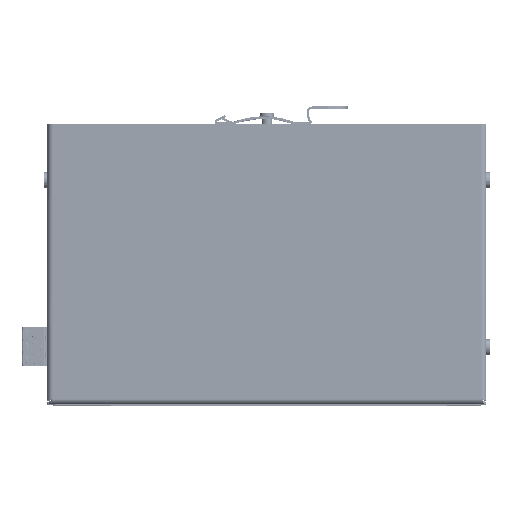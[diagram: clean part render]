
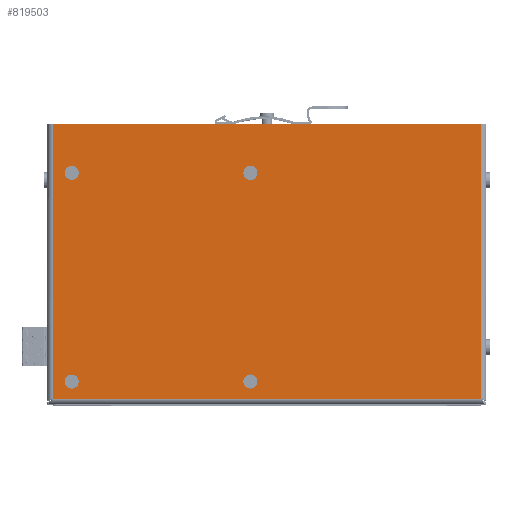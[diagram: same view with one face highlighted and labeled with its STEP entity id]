
A CAD part, top view. The second image highlights one B-rep face of the part: STEP entity #819503.
In plain terms, the highlighted planar face has unit normal (0, 0, 1).
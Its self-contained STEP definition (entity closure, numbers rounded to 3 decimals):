
#59736=FACE_BOUND('',#118910,.T.);
#59737=FACE_BOUND('',#118911,.T.);
#59738=FACE_BOUND('',#118912,.T.);
#59739=FACE_BOUND('',#118913,.T.);
#73523=PLANE('',#859409);
#84970=FACE_OUTER_BOUND('',#118909,.T.);
#118909=EDGE_LOOP('',(#637983,#637984,#637985,#637986));
#118910=EDGE_LOOP('',(#637987));
#118911=EDGE_LOOP('',(#637988));
#118912=EDGE_LOOP('',(#637989));
#118913=EDGE_LOOP('',(#637990));
#166774=LINE('',#1223654,#240197);
#166777=LINE('',#1223664,#240200);
#166780=LINE('',#1223671,#240203);
#166781=LINE('',#1223673,#240204);
#240197=VECTOR('',#958011,10.);
#240200=VECTOR('',#958024,10.);
#240203=VECTOR('',#958035,10.);
#240204=VECTOR('',#958038,10.);
#312403=CIRCLE('',#859356,2.7);
#312405=CIRCLE('',#859359,2.7);
#312407=CIRCLE('',#859362,2.7);
#312409=CIRCLE('',#859365,2.7);
#374222=VERTEX_POINT('',#1223323);
#374224=VERTEX_POINT('',#1223329);
#374226=VERTEX_POINT('',#1223335);
#374228=VERTEX_POINT('',#1223341);
#374248=VERTEX_POINT('',#1223435);
#374258=VERTEX_POINT('',#1223610);
#374259=VERTEX_POINT('',#1223652);
#374261=VERTEX_POINT('',#1223663);
#500494=EDGE_CURVE('',#374222,#374222,#312403,.T.);
#500497=EDGE_CURVE('',#374224,#374224,#312405,.T.);
#500500=EDGE_CURVE('',#374226,#374226,#312407,.T.);
#500503=EDGE_CURVE('',#374228,#374228,#312409,.T.);
#500568=EDGE_CURVE('',#374258,#374259,#166774,.T.);
#500572=EDGE_CURVE('',#374261,#374248,#166777,.T.);
#500576=EDGE_CURVE('',#374248,#374258,#166780,.T.);
#500577=EDGE_CURVE('',#374261,#374259,#166781,.T.);
#637983=ORIENTED_EDGE('',*,*,#500568,.T.);
#637984=ORIENTED_EDGE('',*,*,#500577,.F.);
#637985=ORIENTED_EDGE('',*,*,#500572,.T.);
#637986=ORIENTED_EDGE('',*,*,#500576,.T.);
#637987=ORIENTED_EDGE('',*,*,#500494,.T.);
#637988=ORIENTED_EDGE('',*,*,#500497,.T.);
#637989=ORIENTED_EDGE('',*,*,#500500,.T.);
#637990=ORIENTED_EDGE('',*,*,#500503,.T.);
#819503=ADVANCED_FACE('',(#84970,#59736,#59737,#59738,#59739),#73523,.T.);
#859356=AXIS2_PLACEMENT_3D('',#1223324,#957874,#957875);
#859359=AXIS2_PLACEMENT_3D('',#1223330,#957881,#957882);
#859362=AXIS2_PLACEMENT_3D('',#1223336,#957888,#957889);
#859365=AXIS2_PLACEMENT_3D('',#1223342,#957895,#957896);
#859409=AXIS2_PLACEMENT_3D('',#1223672,#958036,#958037);
#957874=DIRECTION('center_axis',(0.,0.,-1.));
#957875=DIRECTION('ref_axis',(1.,0.,0.));
#957881=DIRECTION('center_axis',(0.,0.,-1.));
#957882=DIRECTION('ref_axis',(1.,0.,0.));
#957888=DIRECTION('center_axis',(0.,0.,-1.));
#957889=DIRECTION('ref_axis',(1.,0.,0.));
#957895=DIRECTION('center_axis',(0.,0.,-1.));
#957896=DIRECTION('ref_axis',(1.,0.,0.));
#958011=DIRECTION('',(0.,1.,0.));
#958024=DIRECTION('',(0.,-1.,0.));
#958035=DIRECTION('',(1.,0.,0.));
#958036=DIRECTION('center_axis',(0.,0.,1.));
#958037=DIRECTION('ref_axis',(1.,0.,0.));
#958038=DIRECTION('',(1.,0.,0.));
#1223323=CARTESIAN_POINT('',(-53.,41.3,1.));
#1223324=CARTESIAN_POINT('Origin',(-50.3,41.3,1.));
#1223329=CARTESIAN_POINT('',(15.5,41.3,1.));
#1223330=CARTESIAN_POINT('Origin',(18.2,41.3,1.));
#1223335=CARTESIAN_POINT('',(15.5,-38.7,1.));
#1223336=CARTESIAN_POINT('Origin',(18.2,-38.7,1.));
#1223341=CARTESIAN_POINT('',(-53.,-38.7,1.));
#1223342=CARTESIAN_POINT('Origin',(-50.3,-38.7,1.));
#1223435=CARTESIAN_POINT('',(-57.65,-45.5,1.));
#1223610=CARTESIAN_POINT('',(106.65,-45.5,1.));
#1223652=CARTESIAN_POINT('',(106.65,59.9,1.));
#1223654=CARTESIAN_POINT('',(106.65,-19.65,1.));
#1223663=CARTESIAN_POINT('',(-57.65,59.9,1.));
#1223664=CARTESIAN_POINT('',(-57.65,33.05,1.));
#1223671=CARTESIAN_POINT('',(-16.575,-45.5,1.));
#1223672=CARTESIAN_POINT('Origin',(24.5,6.2,1.));
#1223673=CARTESIAN_POINT('',(108.65,59.9,1.));
